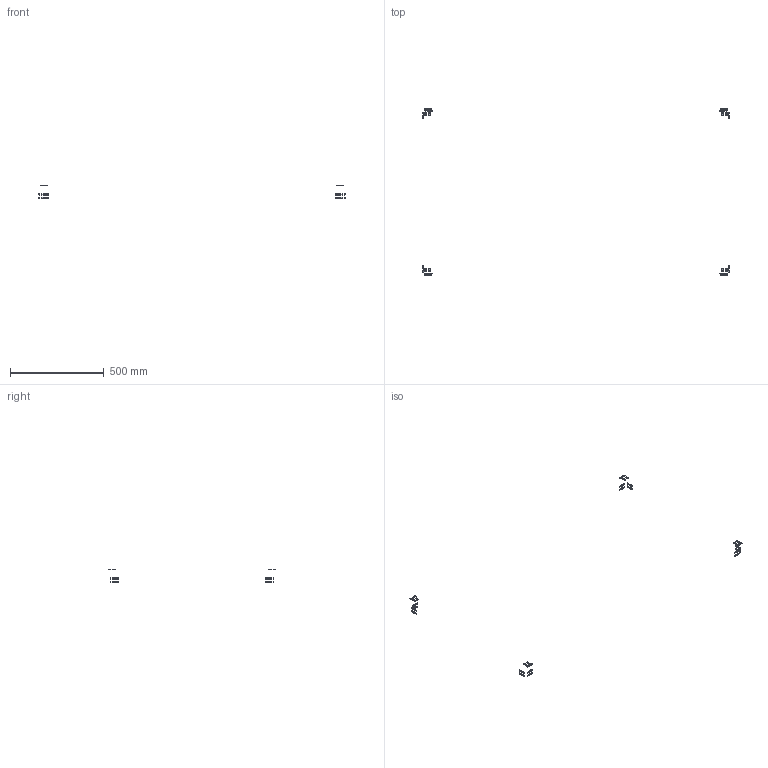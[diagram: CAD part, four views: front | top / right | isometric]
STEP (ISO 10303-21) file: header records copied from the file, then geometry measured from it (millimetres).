
FILE_DESCRIPTION(/* description */ (''),/* implementation_level */ '2;1');
FILE_NAME(/* name */ 'FRF9D5~1',/* time_stamp */ '2014-02-14T19:31:12+01:00',/* author */ (''),/* organization */ (''),/* preprocessor_version */ 'ST-DEVELOPER v14',/* originating_system */ '',/* authorisation */ '');
FILE_SCHEMA (('AUTOMOTIVE_DESIGN'));
Length unit declared in the file: millimetre
Products named in the file (2): Document; nut tslot, post, M5
Assembly tree (24 placements, depth 2):
  Document
    nut tslot, post, M5  x24
Bounding box: 1630.4 x 888.3 x 72.75 mm (x, y, z)
Volume: 15120.7 mm3; surface area: 20136.7 mm2
Topology: 48 solids, 48 shells, 624 faces, 1728 edges, 1152 vertices
Faces by surface type: plane 528, bspline 96
Entity records: 24033 total; most frequent: CARTESIAN_POINT 11427, B_SPLINE_CURVE_WITH_KNOTS 2500, ORIENTED_EDGE 1800, PCURVE 1800, DEFINITIONAL_REPRESENTATION 1800, SURFACE_CURVE 900, EDGE_CURVE 900, VERTEX_POINT 600
